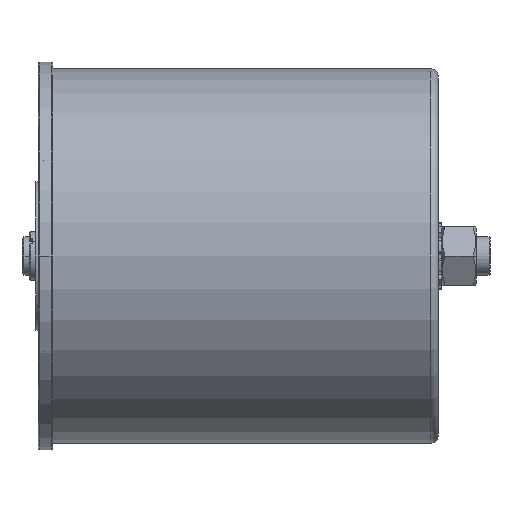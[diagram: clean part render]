
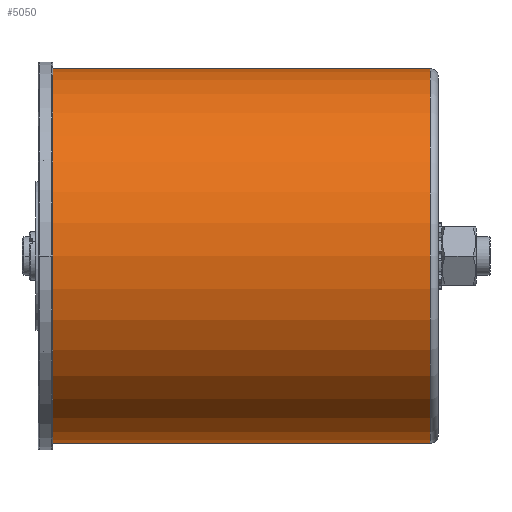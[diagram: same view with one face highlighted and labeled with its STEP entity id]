
A CAD part, left-side view. The second image highlights one B-rep face of the part: STEP entity #5050.
In plain terms, the highlighted cylindrical face has radius 58 mm (diameter 116 mm), a partial arc.
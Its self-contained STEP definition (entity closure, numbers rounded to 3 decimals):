
#15 = CARTESIAN_POINT ( 'NONE',  ( 0., -0.6, -58. ) ) ;
#671 = ORIENTED_EDGE ( 'NONE', *, *, #7252, .F. ) ;
#1411 = CARTESIAN_POINT ( 'NONE',  ( 0., -122.4, 0. ) ) ;
#1447 = VERTEX_POINT ( 'NONE', #6140 ) ;
#2503 = CARTESIAN_POINT ( 'NONE',  ( 0., -0.6, 0. ) ) ;
#2732 = DIRECTION ( 'NONE',  ( 0., 1., 0. ) ) ;
#2955 = FACE_OUTER_BOUND ( 'NONE', #5680, .T. ) ;
#3314 = LINE ( 'NONE', #11496, #8863 ) ;
#3368 = DIRECTION ( 'NONE',  ( 0., 0., -1. ) ) ;
#3856 = LINE ( 'NONE', #4525, #9552 ) ;
#4174 = CIRCLE ( 'NONE', #11653, 58. ) ;
#4419 = CARTESIAN_POINT ( 'NONE',  ( 0., -119.9, -58. ) ) ;
#4525 = CARTESIAN_POINT ( 'NONE',  ( 0., -122.4, 58. ) ) ;
#5050 = ADVANCED_FACE ( 'NONE', ( #2955 ), #7752, .T. ) ;
#5197 = AXIS2_PLACEMENT_3D ( 'NONE', #5486, #2732, #12329 ) ;
#5486 = CARTESIAN_POINT ( 'NONE',  ( 0., -119.9, 0. ) ) ;
#5680 = EDGE_LOOP ( 'NONE', ( #671, #8669, #7556, #8254 ) ) ;
#5686 = AXIS2_PLACEMENT_3D ( 'NONE', #1411, #12054, #3368 ) ;
#6140 = CARTESIAN_POINT ( 'NONE',  ( 0., -0.6, 58. ) ) ;
#6207 = DIRECTION ( 'NONE',  ( 0., 0., -1. ) ) ;
#6388 = CIRCLE ( 'NONE', #5197, 58. ) ;
#6584 = VERTEX_POINT ( 'NONE', #4419 ) ;
#7252 = EDGE_CURVE ( 'NONE', #1447, #7989, #3856, .T. ) ;
#7556 = ORIENTED_EDGE ( 'NONE', *, *, #9363, .T. ) ;
#7752 = CYLINDRICAL_SURFACE ( 'NONE', #5686, 58. ) ;
#7966 = EDGE_CURVE ( 'NONE', #6584, #7989, #6388, .T. ) ;
#7989 = VERTEX_POINT ( 'NONE', #8467 ) ;
#8133 = VERTEX_POINT ( 'NONE', #15 ) ;
#8254 = ORIENTED_EDGE ( 'NONE', *, *, #7966, .T. ) ;
#8467 = CARTESIAN_POINT ( 'NONE',  ( 0., -119.9, 58. ) ) ;
#8669 = ORIENTED_EDGE ( 'NONE', *, *, #11442, .T. ) ;
#8863 = VECTOR ( 'NONE', #10651, 1000. ) ;
#9363 = EDGE_CURVE ( 'NONE', #8133, #6584, #3314, .T. ) ;
#9552 = VECTOR ( 'NONE', #10162, 1000. ) ;
#10019 = DIRECTION ( 'NONE',  ( 0., -1., 0. ) ) ;
#10162 = DIRECTION ( 'NONE',  ( 0., -1., 0. ) ) ;
#10651 = DIRECTION ( 'NONE',  ( 0., -1., 0. ) ) ;
#11442 = EDGE_CURVE ( 'NONE', #1447, #8133, #4174, .T. ) ;
#11496 = CARTESIAN_POINT ( 'NONE',  ( 0., -122.4, -58. ) ) ;
#11653 = AXIS2_PLACEMENT_3D ( 'NONE', #2503, #10019, #6207 ) ;
#12054 = DIRECTION ( 'NONE',  ( 0., -1., 0. ) ) ;
#12329 = DIRECTION ( 'NONE',  ( 0., 0., -1. ) ) ;
